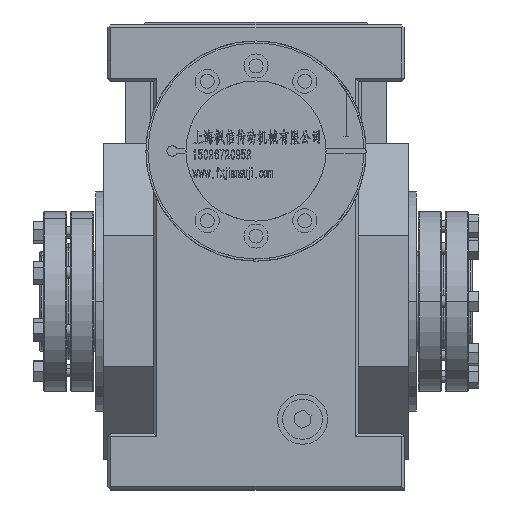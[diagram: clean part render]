
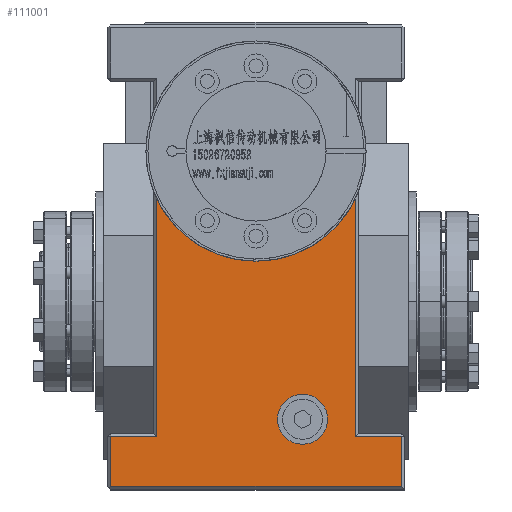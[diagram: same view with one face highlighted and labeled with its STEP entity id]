
A CAD part, top view. The second image highlights one B-rep face of the part: STEP entity #111001.
In plain terms, the highlighted planar face has unit normal (0, 0, 1).
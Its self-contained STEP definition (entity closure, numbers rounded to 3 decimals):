
#1873 = CARTESIAN_POINT ( 'NONE',  ( 72.5, -92.5, 104. ) ) ;
#4122 = DIRECTION ( 'NONE',  ( 0., 0., 1. ) ) ;
#6194 = VECTOR ( 'NONE', #12410, 1000. ) ;
#6283 = VERTEX_POINT ( 'NONE', #1873 ) ;
#6432 = ORIENTED_EDGE ( 'NONE', *, *, #27867, .F. ) ;
#7273 = EDGE_CURVE ( 'NONE', #6283, #54227, #77157, .T. ) ;
#7713 = VECTOR ( 'NONE', #72942, 1000. ) ;
#8116 = ORIENTED_EDGE ( 'NONE', *, *, #56689, .T. ) ;
#8559 = EDGE_CURVE ( 'NONE', #76773, #21560, #46016, .T. ) ;
#8841 = VERTEX_POINT ( 'NONE', #16233 ) ;
#12410 = DIRECTION ( 'NONE',  ( 0., 1., 0. ) ) ;
#16233 = CARTESIAN_POINT ( 'NONE',  ( 35.762, -59., 104. ) ) ;
#16697 = CIRCLE ( 'NONE', #83036, 55. ) ;
#16944 = PLANE ( 'NONE',  #84226 ) ;
#20163 = VERTEX_POINT ( 'NONE', #100120 ) ;
#21560 = VERTEX_POINT ( 'NONE', #46048 ) ;
#27867 = EDGE_CURVE ( 'NONE', #112706, #56222, #16697, .T. ) ;
#29628 = LINE ( 'NONE', #82426, #7713 ) ;
#29760 = DIRECTION ( 'NONE',  ( -1., 0., 0. ) ) ;
#30486 = CIRCLE ( 'NONE', #39961, 12.5 ) ;
#30787 = ORIENTED_EDGE ( 'NONE', *, *, #70461, .T. ) ;
#32079 = CARTESIAN_POINT ( 'NONE',  ( 72.5, -66., 104. ) ) ;
#34147 = EDGE_CURVE ( 'NONE', #110967, #8841, #30486, .T. ) ;
#34801 = DIRECTION ( 'NONE',  ( 0., 0., 1. ) ) ;
#37901 = CARTESIAN_POINT ( 'NONE',  ( -49.5, -66., 104. ) ) ;
#39702 = DIRECTION ( 'NONE',  ( 1., 0., 0. ) ) ;
#39961 = AXIS2_PLACEMENT_3D ( 'NONE', #51758, #42277, #114646 ) ;
#40050 = EDGE_CURVE ( 'NONE', #8841, #110967, #105719, .T. ) ;
#41560 = DIRECTION ( 'NONE',  ( 0., 1., 0. ) ) ;
#42277 = DIRECTION ( 'NONE',  ( 0., 0., 1. ) ) ;
#43619 = LINE ( 'NONE', #89261, #48018 ) ;
#46016 = LINE ( 'NONE', #82187, #69634 ) ;
#46048 = CARTESIAN_POINT ( 'NONE',  ( -72.5, -92.5, 104. ) ) ;
#48018 = VECTOR ( 'NONE', #63180, 1000. ) ;
#48530 = EDGE_LOOP ( 'NONE', ( #57861, #80362 ) ) ;
#49144 = LINE ( 'NONE', #37901, #113468 ) ;
#49903 = CARTESIAN_POINT ( 'NONE',  ( 74., -67.5, 104. ) ) ;
#51758 = CARTESIAN_POINT ( 'NONE',  ( 23.262, -59., 104. ) ) ;
#53716 = FACE_BOUND ( 'NONE', #48530, .T. ) ;
#54227 = VERTEX_POINT ( 'NONE', #88048 ) ;
#56222 = VERTEX_POINT ( 'NONE', #104903 ) ;
#56689 = EDGE_CURVE ( 'NONE', #20163, #76773, #43619, .T. ) ;
#56914 = LINE ( 'NONE', #93083, #6194 ) ;
#57861 = ORIENTED_EDGE ( 'NONE', *, *, #40050, .F. ) ;
#57974 = ORIENTED_EDGE ( 'NONE', *, *, #86578, .T. ) ;
#59649 = ORIENTED_EDGE ( 'NONE', *, *, #93794, .T. ) ;
#62053 = ORIENTED_EDGE ( 'NONE', *, *, #8559, .T. ) ;
#63180 = DIRECTION ( 'NONE',  ( -1., 0., 0. ) ) ;
#63905 = VECTOR ( 'NONE', #41560, 1000. ) ;
#64070 = AXIS2_PLACEMENT_3D ( 'NONE', #84765, #4122, #39702 ) ;
#69634 = VECTOR ( 'NONE', #73283, 1000. ) ;
#70208 = CARTESIAN_POINT ( 'NONE',  ( -72.5, -67.5, 104. ) ) ;
#70461 = EDGE_CURVE ( 'NONE', #21560, #6283, #29628, .T. ) ;
#71533 = DIRECTION ( 'NONE',  ( 0., 0., -1. ) ) ;
#72942 = DIRECTION ( 'NONE',  ( 1., 0., 0. ) ) ;
#73283 = DIRECTION ( 'NONE',  ( 0., -1., 0. ) ) ;
#73699 = EDGE_CURVE ( 'NONE', #109909, #56222, #56914, .T. ) ;
#74084 = DIRECTION ( 'NONE',  ( 0., -1., 0. ) ) ;
#75350 = EDGE_LOOP ( 'NONE', ( #30787, #103298, #59649, #115308, #6432, #57974, #8116, #62053 ) ) ;
#75403 = LINE ( 'NONE', #49903, #86550 ) ;
#76773 = VERTEX_POINT ( 'NONE', #70208 ) ;
#77157 = LINE ( 'NONE', #32079, #63905 ) ;
#80362 = ORIENTED_EDGE ( 'NONE', *, *, #34147, .F. ) ;
#82187 = CARTESIAN_POINT ( 'NONE',  ( -72.5, 138., 104. ) ) ;
#82188 = FACE_OUTER_BOUND ( 'NONE', #75350, .T. ) ;
#82426 = CARTESIAN_POINT ( 'NONE',  ( 74., -92.5, 104. ) ) ;
#83036 = AXIS2_PLACEMENT_3D ( 'NONE', #114332, #34801, #104839 ) ;
#84226 = AXIS2_PLACEMENT_3D ( 'NONE', #90475, #71533, #91669 ) ;
#84765 = CARTESIAN_POINT ( 'NONE',  ( 23.262, -59., 104. ) ) ;
#86550 = VECTOR ( 'NONE', #29760, 1000. ) ;
#86578 = EDGE_CURVE ( 'NONE', #112706, #20163, #49144, .T. ) ;
#88048 = CARTESIAN_POINT ( 'NONE',  ( 72.5, -67.5, 104. ) ) ;
#89261 = CARTESIAN_POINT ( 'NONE',  ( -74., -67.5, 104. ) ) ;
#90475 = CARTESIAN_POINT ( 'NONE',  ( 74., 138., 104. ) ) ;
#91669 = DIRECTION ( 'NONE',  ( -1., 0., 0. ) ) ;
#93083 = CARTESIAN_POINT ( 'NONE',  ( 49.5, 54.409, 104. ) ) ;
#93794 = EDGE_CURVE ( 'NONE', #54227, #109909, #75403, .T. ) ;
#98846 = CARTESIAN_POINT ( 'NONE',  ( 49.5, -67.5, 104. ) ) ;
#100120 = CARTESIAN_POINT ( 'NONE',  ( -49.5, -67.5, 104. ) ) ;
#100568 = CARTESIAN_POINT ( 'NONE',  ( 10.762, -59., 104. ) ) ;
#103298 = ORIENTED_EDGE ( 'NONE', *, *, #7273, .T. ) ;
#104121 = CARTESIAN_POINT ( 'NONE',  ( -49.5, 51.026, 104. ) ) ;
#104839 = DIRECTION ( 'NONE',  ( 0., 1., 0. ) ) ;
#104903 = CARTESIAN_POINT ( 'NONE',  ( 49.5, 51.026, 104. ) ) ;
#105719 = CIRCLE ( 'NONE', #64070, 12.5 ) ;
#109909 = VERTEX_POINT ( 'NONE', #98846 ) ;
#110967 = VERTEX_POINT ( 'NONE', #100568 ) ;
#111001 = ADVANCED_FACE ( 'NONE', ( #53716, #82188 ), #16944, .F. ) ;
#112706 = VERTEX_POINT ( 'NONE', #104121 ) ;
#113468 = VECTOR ( 'NONE', #74084, 1000. ) ;
#114332 = CARTESIAN_POINT ( 'NONE',  ( 0., 75., 104. ) ) ;
#114646 = DIRECTION ( 'NONE',  ( 1., 0., 0. ) ) ;
#115308 = ORIENTED_EDGE ( 'NONE', *, *, #73699, .T. ) ;
